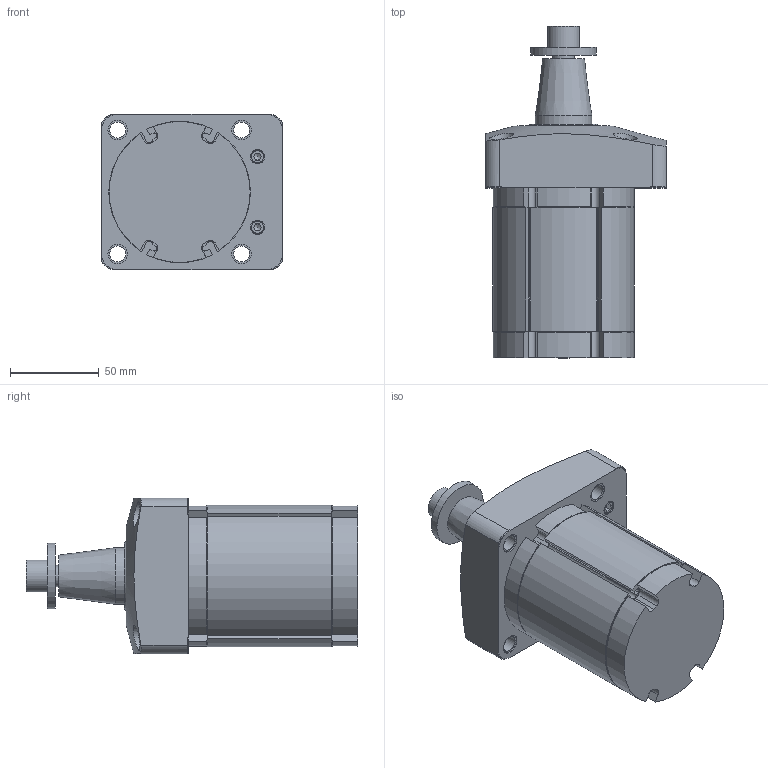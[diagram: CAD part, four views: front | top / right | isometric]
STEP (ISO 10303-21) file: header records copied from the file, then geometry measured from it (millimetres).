
FILE_DESCRIPTION( ( '' ), '1' );
FILE_NAME( 'W:/Catalogue/JSM/jsm50-25/jsm50-25.stp', '2008-05-26T02:57:27', ( '機械事業部産業機器グループ' ), ( '豊和工業株式会社' ), 'XStep 1.0', ' ', ' ' );
FILE_SCHEMA( ( 'CONFIG_CONTROL_DESIGN' ) );
Length unit declared in the file: millimetre
Products named in the file (7): Assem1; 1; 2; 3; 4; 5; 6
Bounding box: 102 x 187.5 x 88 mm (x, y, z)
Volume: 1461527.4 mm3; surface area: 227402.5 mm2
Topology: 14 solids, 16 shells, 542 faces, 1358 edges, 894 vertices
Faces by surface type: plane 326, cylinder 170, cone 44, torus 2
Full cylindrical faces by diameter (mm): 6.3 x4, 8 x4, 9 x8, 11 x12, 12 x4, 13 x2, 14 x8, 18 x2, 32 x4, 32.15 x2, 34 x2, 37 x2, 39 x2, 44 x4, 50 x6
Entity records: 8098 total; most frequent: CARTESIAN_POINT 1853, DIRECTION 1267, ORIENTED_EDGE 1116, EDGE_CURVE 558, AXIS2_PLACEMENT_3D 461, VERTEX_POINT 398, EDGE_LOOP 347, LINE 345
